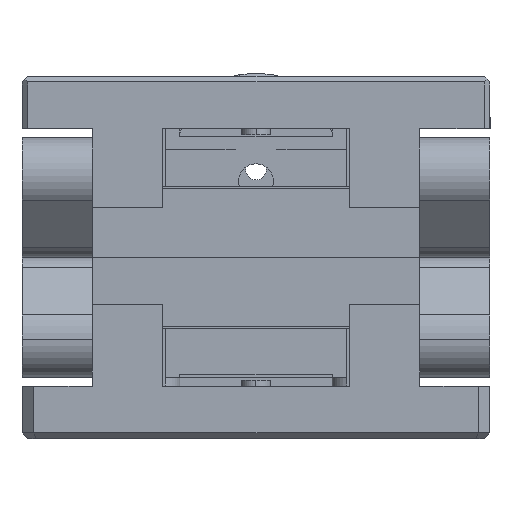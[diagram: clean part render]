
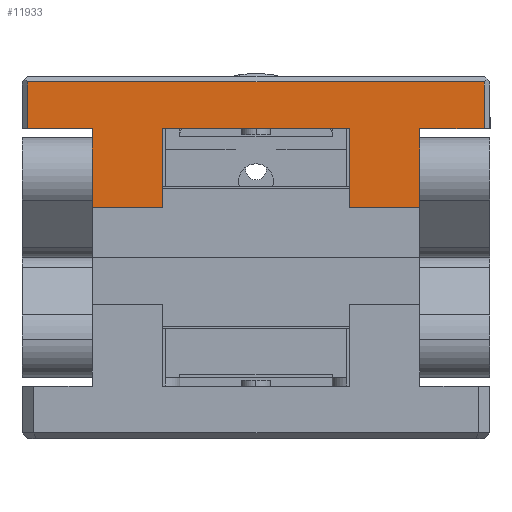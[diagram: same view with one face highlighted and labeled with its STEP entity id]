
A CAD part, left-side view. The second image highlights one B-rep face of the part: STEP entity #11933.
In plain terms, the highlighted planar face has unit normal (-1, 0, 0).
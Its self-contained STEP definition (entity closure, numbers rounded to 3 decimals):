
#73 = LINE ( 'NONE', #673, #13455 ) ;
#76 = EDGE_CURVE ( 'NONE', #971, #6406, #7369, .T. ) ;
#103 = CARTESIAN_POINT ( 'NONE',  ( -89.065, 20.734, 41.5 ) ) ;
#132 = VECTOR ( 'NONE', #486, 1000. ) ;
#486 = DIRECTION ( 'NONE',  ( 0., 1., 0. ) ) ;
#673 = CARTESIAN_POINT ( 'NONE',  ( -89.065, 8.734, 28. ) ) ;
#836 = CARTESIAN_POINT ( 'NONE',  ( -89.065, -46.266, 41.5 ) ) ;
#905 = VECTOR ( 'NONE', #5616, 1000. ) ;
#917 = VERTEX_POINT ( 'NONE', #7275 ) ;
#957 = CARTESIAN_POINT ( 'NONE',  ( -89.065, -46.266, 49.5 ) ) ;
#971 = VERTEX_POINT ( 'NONE', #9332 ) ;
#972 = LINE ( 'NONE', #7579, #4122 ) ;
#988 = VERTEX_POINT ( 'NONE', #8268 ) ;
#1035 = CARTESIAN_POINT ( 'NONE',  ( -89.065, -46.266, 38. ) ) ;
#1118 = ORIENTED_EDGE ( 'NONE', *, *, #4724, .F. ) ;
#1191 = EDGE_CURVE ( 'NONE', #5973, #1837, #972, .T. ) ;
#1248 = DIRECTION ( 'NONE',  ( 0., 0., 1. ) ) ;
#1405 = LINE ( 'NONE', #13587, #3893 ) ;
#1587 = VERTEX_POINT ( 'NONE', #836 ) ;
#1745 = CARTESIAN_POINT ( 'NONE',  ( -89.065, 31.734, 41.5 ) ) ;
#1837 = VERTEX_POINT ( 'NONE', #103 ) ;
#1919 = LINE ( 'NONE', #1035, #4050 ) ;
#2130 = CARTESIAN_POINT ( 'NONE',  ( -89.065, -35.266, 28. ) ) ;
#2324 = VECTOR ( 'NONE', #3496, 1000. ) ;
#2330 = CARTESIAN_POINT ( 'NONE',  ( -89.065, 8.734, 28. ) ) ;
#2397 = CARTESIAN_POINT ( 'NONE',  ( -89.065, 32.734, 41.5 ) ) ;
#2558 = ORIENTED_EDGE ( 'NONE', *, *, #8165, .T. ) ;
#2588 = CARTESIAN_POINT ( 'NONE',  ( -89.065, 31.734, 49.5 ) ) ;
#2664 = EDGE_CURVE ( 'NONE', #988, #5973, #5570, .T. ) ;
#2963 = ORIENTED_EDGE ( 'NONE', *, *, #3198, .F. ) ;
#3076 = VERTEX_POINT ( 'NONE', #957 ) ;
#3198 = EDGE_CURVE ( 'NONE', #6406, #917, #1405, .T. ) ;
#3303 = LINE ( 'NONE', #2397, #2324 ) ;
#3358 = EDGE_CURVE ( 'NONE', #4564, #13340, #12802, .T. ) ;
#3435 = EDGE_CURVE ( 'NONE', #3076, #12615, #6512, .T. ) ;
#3476 = ORIENTED_EDGE ( 'NONE', *, *, #3358, .T. ) ;
#3488 = ORIENTED_EDGE ( 'NONE', *, *, #9865, .F. ) ;
#3496 = DIRECTION ( 'NONE',  ( 0., 1., 0. ) ) ;
#3893 = VECTOR ( 'NONE', #8345, 1000. ) ;
#4050 = VECTOR ( 'NONE', #7371, 1000. ) ;
#4091 = DIRECTION ( 'NONE',  ( 0., 0., -1. ) ) ;
#4101 = CARTESIAN_POINT ( 'NONE',  ( -89.065, 32.734, 38. ) ) ;
#4122 = VECTOR ( 'NONE', #1248, 1000. ) ;
#4564 = VERTEX_POINT ( 'NONE', #2130 ) ;
#4724 = EDGE_CURVE ( 'NONE', #1837, #13192, #3303, .T. ) ;
#4835 = ORIENTED_EDGE ( 'NONE', *, *, #7819, .T. ) ;
#5128 = PLANE ( 'NONE',  #11945 ) ;
#5244 = VECTOR ( 'NONE', #8656, 1000. ) ;
#5388 = CARTESIAN_POINT ( 'NONE',  ( -89.065, -35.266, 28. ) ) ;
#5448 = EDGE_LOOP ( 'NONE', ( #3488, #4835, #11464, #7405, #1118, #9037, #10597, #2558, #2963, #7573, #11664, #3476 ) ) ;
#5570 = LINE ( 'NONE', #2330, #5244 ) ;
#5616 = DIRECTION ( 'NONE',  ( 0., 1., 0. ) ) ;
#5694 = FACE_OUTER_BOUND ( 'NONE', #5448, .T. ) ;
#5743 = CARTESIAN_POINT ( 'NONE',  ( -89.065, -35.266, 28. ) ) ;
#5973 = VERTEX_POINT ( 'NONE', #11402 ) ;
#6219 = DIRECTION ( 'NONE',  ( 1., 0., 0. ) ) ;
#6406 = VERTEX_POINT ( 'NONE', #10071 ) ;
#6512 = LINE ( 'NONE', #10878, #905 ) ;
#7275 = CARTESIAN_POINT ( 'NONE',  ( -89.065, 8.734, 41.5 ) ) ;
#7362 = CARTESIAN_POINT ( 'NONE',  ( -89.065, -35.266, 41.5 ) ) ;
#7369 = LINE ( 'NONE', #11618, #13316 ) ;
#7371 = DIRECTION ( 'NONE',  ( 0., 0., 1. ) ) ;
#7405 = ORIENTED_EDGE ( 'NONE', *, *, #13305, .T. ) ;
#7573 = ORIENTED_EDGE ( 'NONE', *, *, #76, .F. ) ;
#7579 = CARTESIAN_POINT ( 'NONE',  ( -89.065, 20.734, 28. ) ) ;
#7819 = EDGE_CURVE ( 'NONE', #1587, #3076, #1919, .T. ) ;
#8165 = EDGE_CURVE ( 'NONE', #988, #917, #73, .T. ) ;
#8171 = VECTOR ( 'NONE', #4091, 1000. ) ;
#8268 = CARTESIAN_POINT ( 'NONE',  ( -89.065, 8.734, 28. ) ) ;
#8345 = DIRECTION ( 'NONE',  ( 0., 1., 0. ) ) ;
#8656 = DIRECTION ( 'NONE',  ( 0., 1., 0. ) ) ;
#9037 = ORIENTED_EDGE ( 'NONE', *, *, #1191, .F. ) ;
#9332 = CARTESIAN_POINT ( 'NONE',  ( -89.065, -23.266, 28. ) ) ;
#9421 = CARTESIAN_POINT ( 'NONE',  ( -89.065, 31.734, 38. ) ) ;
#9691 = EDGE_CURVE ( 'NONE', #4564, #971, #13677, .T. ) ;
#9865 = EDGE_CURVE ( 'NONE', #1587, #13340, #11371, .T. ) ;
#9962 = DIRECTION ( 'NONE',  ( 0., 1., 0. ) ) ;
#10026 = VECTOR ( 'NONE', #10751, 1000. ) ;
#10071 = CARTESIAN_POINT ( 'NONE',  ( -89.065, -23.266, 41.5 ) ) ;
#10574 = VECTOR ( 'NONE', #9962, 1000. ) ;
#10597 = ORIENTED_EDGE ( 'NONE', *, *, #2664, .F. ) ;
#10655 = LINE ( 'NONE', #9421, #8171 ) ;
#10751 = DIRECTION ( 'NONE',  ( 0., 0., 1. ) ) ;
#10878 = CARTESIAN_POINT ( 'NONE',  ( -89.065, 32.734, 49.5 ) ) ;
#11032 = CARTESIAN_POINT ( 'NONE',  ( -89.065, 32.734, 41.5 ) ) ;
#11371 = LINE ( 'NONE', #11032, #132 ) ;
#11402 = CARTESIAN_POINT ( 'NONE',  ( -89.065, 20.734, 28. ) ) ;
#11464 = ORIENTED_EDGE ( 'NONE', *, *, #3435, .T. ) ;
#11618 = CARTESIAN_POINT ( 'NONE',  ( -89.065, -23.266, 28. ) ) ;
#11664 = ORIENTED_EDGE ( 'NONE', *, *, #9691, .F. ) ;
#11933 = ADVANCED_FACE ( 'NONE', ( #5694 ), #5128, .F. ) ;
#11945 = AXIS2_PLACEMENT_3D ( 'NONE', #4101, #6219, #13598 ) ;
#12583 = DIRECTION ( 'NONE',  ( 0., 0., 1. ) ) ;
#12615 = VERTEX_POINT ( 'NONE', #2588 ) ;
#12802 = LINE ( 'NONE', #5388, #10026 ) ;
#13192 = VERTEX_POINT ( 'NONE', #1745 ) ;
#13305 = EDGE_CURVE ( 'NONE', #12615, #13192, #10655, .T. ) ;
#13313 = DIRECTION ( 'NONE',  ( 0., 0., 1. ) ) ;
#13316 = VECTOR ( 'NONE', #12583, 1000. ) ;
#13340 = VERTEX_POINT ( 'NONE', #7362 ) ;
#13455 = VECTOR ( 'NONE', #13313, 1000. ) ;
#13587 = CARTESIAN_POINT ( 'NONE',  ( -89.065, 32.734, 41.5 ) ) ;
#13598 = DIRECTION ( 'NONE',  ( 0., 0., 1. ) ) ;
#13677 = LINE ( 'NONE', #5743, #10574 ) ;
